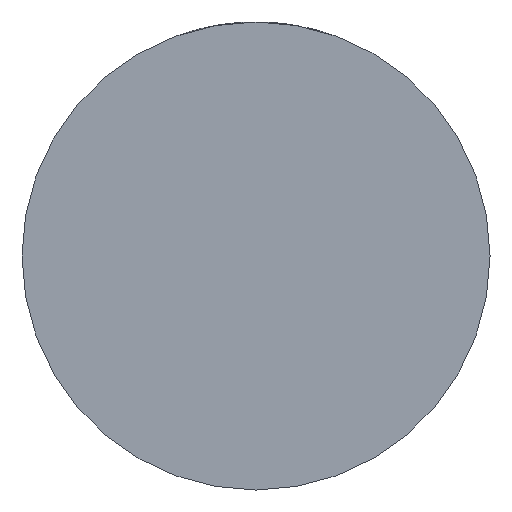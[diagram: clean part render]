
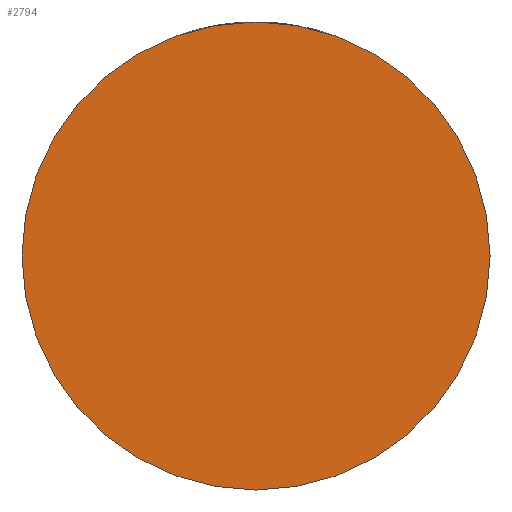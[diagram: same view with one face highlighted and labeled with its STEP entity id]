
A CAD part, front view. The second image highlights one B-rep face of the part: STEP entity #2794.
In plain terms, the highlighted planar face has unit normal (0, -1, 0).
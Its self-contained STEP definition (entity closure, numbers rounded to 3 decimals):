
#36 = ORIENTED_EDGE ( 'NONE', *, *, #1655, .T. ) ;
#227 = DIRECTION ( 'NONE',  ( 0., -1., 0. ) ) ;
#332 = CARTESIAN_POINT ( 'NONE',  ( -32.5, -26., 0. ) ) ;
#558 = FACE_OUTER_BOUND ( 'NONE', #4325, .T. ) ;
#650 = DIRECTION ( 'NONE',  ( 1., 0., 0. ) ) ;
#1400 = EDGE_CURVE ( 'NONE', #3490, #3304, #2473, .T. ) ;
#1529 = AXIS2_PLACEMENT_3D ( 'NONE', #3574, #227, #3942 ) ;
#1553 = PLANE ( 'NONE',  #2615 ) ;
#1655 = EDGE_CURVE ( 'NONE', #3304, #3490, #3529, .T. ) ;
#1831 = AXIS2_PLACEMENT_3D ( 'NONE', #2684, #4337, #4031 ) ;
#2254 = ORIENTED_EDGE ( 'NONE', *, *, #1400, .T. ) ;
#2377 = CARTESIAN_POINT ( 'NONE',  ( 32.5, -26., 0. ) ) ;
#2473 = CIRCLE ( 'NONE', #1831, 32.5 ) ;
#2615 = AXIS2_PLACEMENT_3D ( 'NONE', #3030, #2916, #650 ) ;
#2684 = CARTESIAN_POINT ( 'NONE',  ( 0., -26., 0. ) ) ;
#2794 = ADVANCED_FACE ( 'NONE', ( #558 ), #1553, .T. ) ;
#2916 = DIRECTION ( 'NONE',  ( 0., -1., 0. ) ) ;
#3030 = CARTESIAN_POINT ( 'NONE',  ( 0., -26., 0. ) ) ;
#3304 = VERTEX_POINT ( 'NONE', #2377 ) ;
#3490 = VERTEX_POINT ( 'NONE', #332 ) ;
#3529 = CIRCLE ( 'NONE', #1529, 32.5 ) ;
#3574 = CARTESIAN_POINT ( 'NONE',  ( 0., -26., 0. ) ) ;
#3942 = DIRECTION ( 'NONE',  ( 1., 0., 0. ) ) ;
#4031 = DIRECTION ( 'NONE',  ( 1., 0., 0. ) ) ;
#4325 = EDGE_LOOP ( 'NONE', ( #2254, #36 ) ) ;
#4337 = DIRECTION ( 'NONE',  ( 0., -1., 0. ) ) ;
